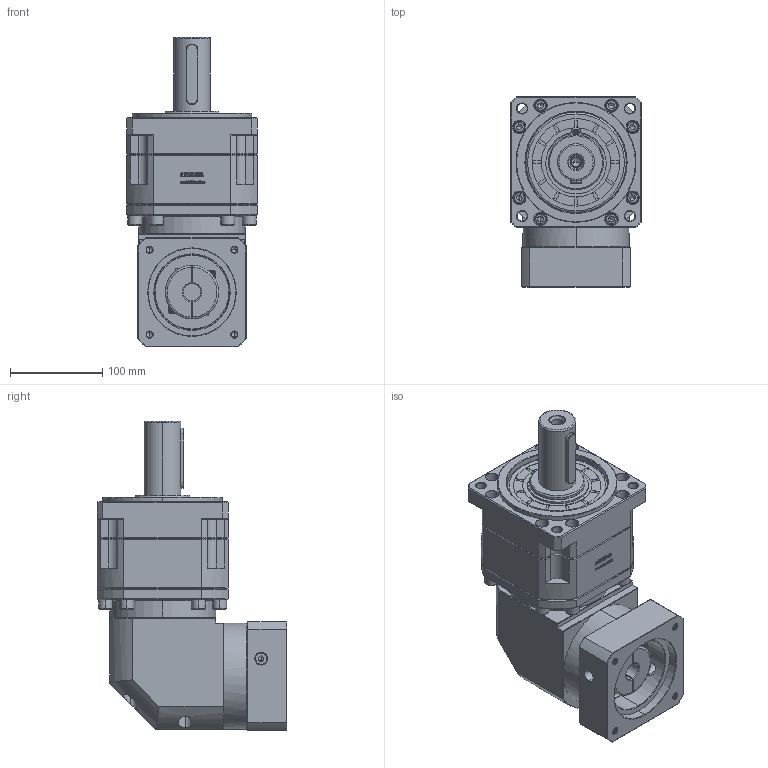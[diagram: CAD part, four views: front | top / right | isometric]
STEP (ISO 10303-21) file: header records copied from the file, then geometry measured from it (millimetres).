
FILE_DESCRIPTION (( 'STEP AP214' ), '1' );
FILE_NAME ('ZBR142A-D40-L2-19-95-130-M8.step', '2023-03-20T04:10:54', ( '' ), ( '' ), 'SwSTEP 2.0', 'SolidWorks 2016', '' );
FILE_SCHEMA (( 'AUTOMOTIVE_DESIGN' ));
Length unit declared in the file: millimetre
Products named in the file (1): ZBR142A-D40-L2-19-95-130-M8
Bounding box: 142 x 205.9 x 335.2 mm (x, y, z)
Volume: 4396147.7 mm3; surface area: 317511.7 mm2
Topology: 6 solids, 6 shells, 3190 faces, 8420 edges, 5398 vertices
Faces by surface type: plane 1652, bspline 592, cylinder 502, cone 398, torus 46
Entity records: 170758 total; most frequent: CARTESIAN_POINT 61421, ORIENTED_EDGE 16732, DIRECTION 13097, EDGE_CURVE 8366, VECTOR 5589, LINE 5589, VERTEX_POINT 5398, AXIS2_PLACEMENT_3D 3754
